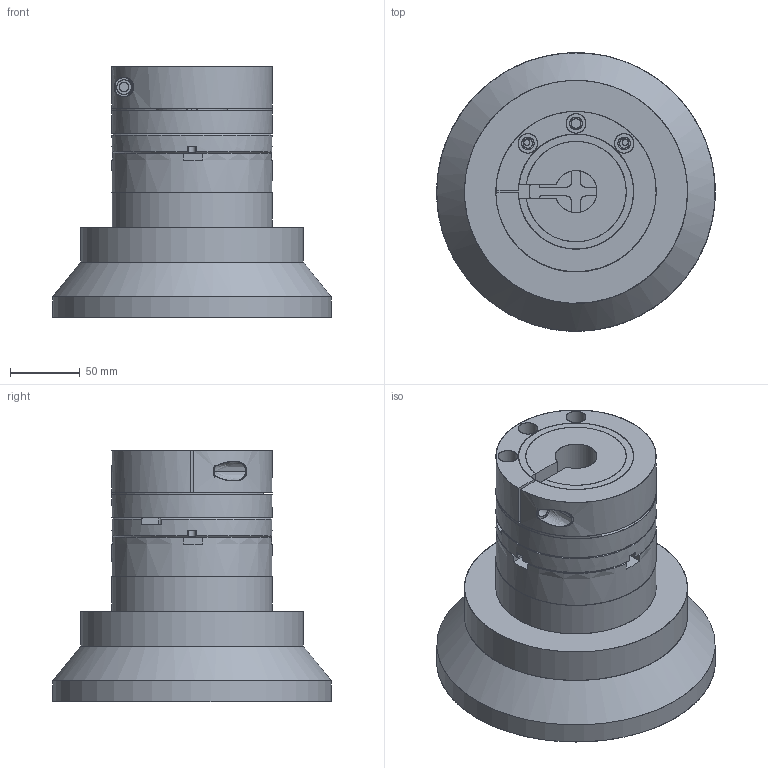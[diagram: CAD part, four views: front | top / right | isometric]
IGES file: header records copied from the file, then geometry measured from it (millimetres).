
Start section: Iges File created by ES
Global section: native system: ES; preprocessor: IGES.4B00; organization: JingDiao; units: millimetre
Bounding box: 200 x 200 x 180.5 mm (x, y, z)
Surface area: 354776.3 mm2 (no closed solid volume)
Topology: 0 solids, 0 shells, 271 faces, 40461 edges, 40305 vertices
Faces by surface type: bspline 180, revolution 91
